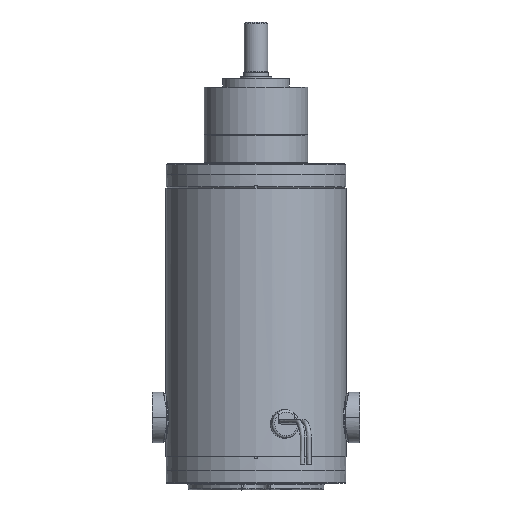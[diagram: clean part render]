
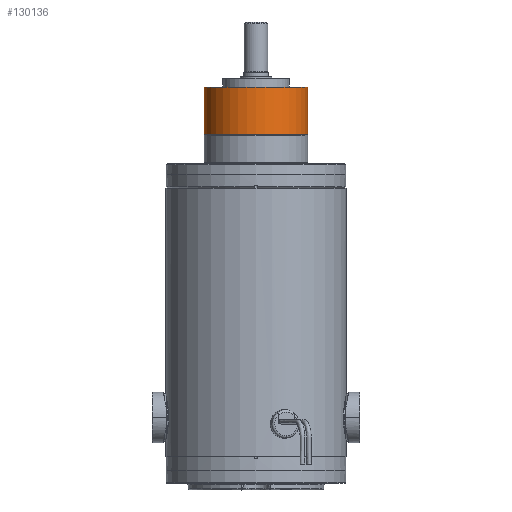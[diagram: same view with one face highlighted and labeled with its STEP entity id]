
A CAD part, front view. The second image highlights one B-rep face of the part: STEP entity #130136.
In plain terms, the highlighted cylindrical face has radius 31 mm (diameter 62 mm), a partial arc.
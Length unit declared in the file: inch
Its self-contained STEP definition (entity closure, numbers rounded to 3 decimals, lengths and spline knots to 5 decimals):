
#1174 = ORIENTED_EDGE ( 'NONE', *, *, #35816, .F. ) ;
#5486 = CARTESIAN_POINT ( 'NONE',  ( -1.22047, 0., 2.38587 ) ) ;
#5667 = AXIS2_PLACEMENT_3D ( 'NONE', #5733, #92675, #18283 ) ;
#5733 = CARTESIAN_POINT ( 'NONE',  ( 0., 0., 2.38587 ) ) ;
#11949 = CIRCLE ( 'NONE', #5667, 1.22047 ) ;
#13409 = EDGE_CURVE ( 'NONE', #57975, #35564, #92623, .T. ) ;
#17688 = DIRECTION ( 'NONE',  ( 0., 0., 1. ) ) ;
#18283 = DIRECTION ( 'NONE',  ( 1., 0., 0. ) ) ;
#23429 = CIRCLE ( 'NONE', #30024, 1.22047 ) ;
#24265 = DIRECTION ( 'NONE',  ( 0., 0., 1. ) ) ;
#30024 = AXIS2_PLACEMENT_3D ( 'NONE', #113642, #39213, #126110 ) ;
#31765 = CARTESIAN_POINT ( 'NONE',  ( 0., 0., 1.20615 ) ) ;
#31885 = CARTESIAN_POINT ( 'NONE',  ( -1.22047, 0., 1.2717 ) ) ;
#35564 = VERTEX_POINT ( 'NONE', #110106 ) ;
#35816 = EDGE_CURVE ( 'NONE', #39470, #63509, #146242, .T. ) ;
#39213 = DIRECTION ( 'NONE',  ( 0., 0., 1. ) ) ;
#39470 = VERTEX_POINT ( 'NONE', #31885 ) ;
#45148 = ORIENTED_EDGE ( 'NONE', *, *, #13409, .T. ) ;
#57975 = VERTEX_POINT ( 'NONE', #105706 ) ;
#59221 = EDGE_LOOP ( 'NONE', ( #1174, #63097, #45148, #71359 ) ) ;
#63097 = ORIENTED_EDGE ( 'NONE', *, *, #151675, .T. ) ;
#63509 = VERTEX_POINT ( 'NONE', #5486 ) ;
#67068 = CARTESIAN_POINT ( 'NONE',  ( -1.22047, 0., 1.20615 ) ) ;
#71359 = ORIENTED_EDGE ( 'NONE', *, *, #157378, .T. ) ;
#88721 = VECTOR ( 'NONE', #24265, 39.37008 ) ;
#92623 = LINE ( 'NONE', #101880, #88721 ) ;
#92675 = DIRECTION ( 'NONE',  ( 0., 0., -1. ) ) ;
#98766 = CYLINDRICAL_SURFACE ( 'NONE', #128731, 1.22047 ) ;
#101880 = CARTESIAN_POINT ( 'NONE',  ( 1.22047, 0., 1.20615 ) ) ;
#105706 = CARTESIAN_POINT ( 'NONE',  ( 1.22047, 0., 1.2717 ) ) ;
#110106 = CARTESIAN_POINT ( 'NONE',  ( 1.22047, 0., 2.38587 ) ) ;
#113197 = VECTOR ( 'NONE', #17688, 39.37008 ) ;
#113642 = CARTESIAN_POINT ( 'NONE',  ( 0., 0., 1.2717 ) ) ;
#114371 = FACE_OUTER_BOUND ( 'NONE', #59221, .T. ) ;
#118621 = DIRECTION ( 'NONE',  ( 1., 0., 0. ) ) ;
#126110 = DIRECTION ( 'NONE',  ( 1., 0., 0. ) ) ;
#128731 = AXIS2_PLACEMENT_3D ( 'NONE', #31765, #143057, #118621 ) ;
#130136 = ADVANCED_FACE ( 'NONE', ( #114371 ), #98766, .T. ) ;
#143057 = DIRECTION ( 'NONE',  ( 0., 0., 1. ) ) ;
#146242 = LINE ( 'NONE', #67068, #113197 ) ;
#151675 = EDGE_CURVE ( 'NONE', #39470, #57975, #23429, .T. ) ;
#157378 = EDGE_CURVE ( 'NONE', #35564, #63509, #11949, .T. ) ;
